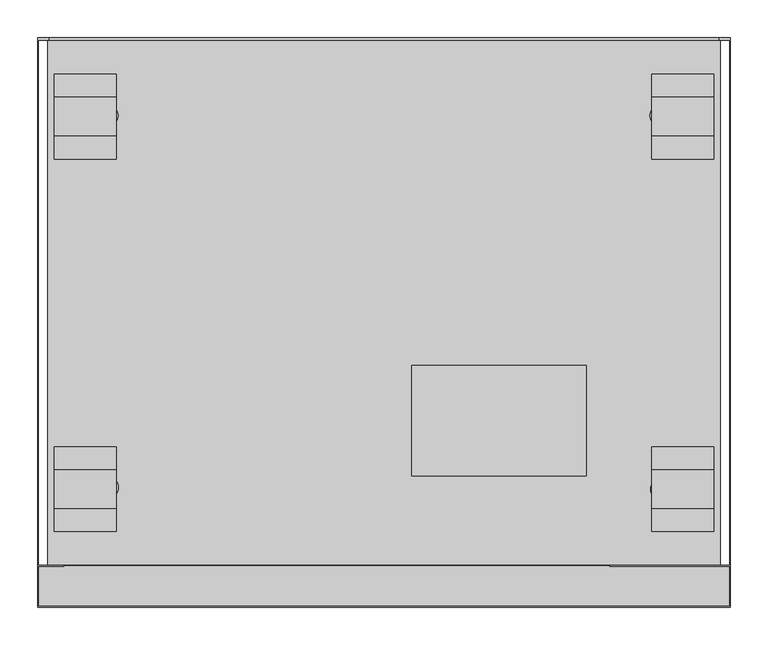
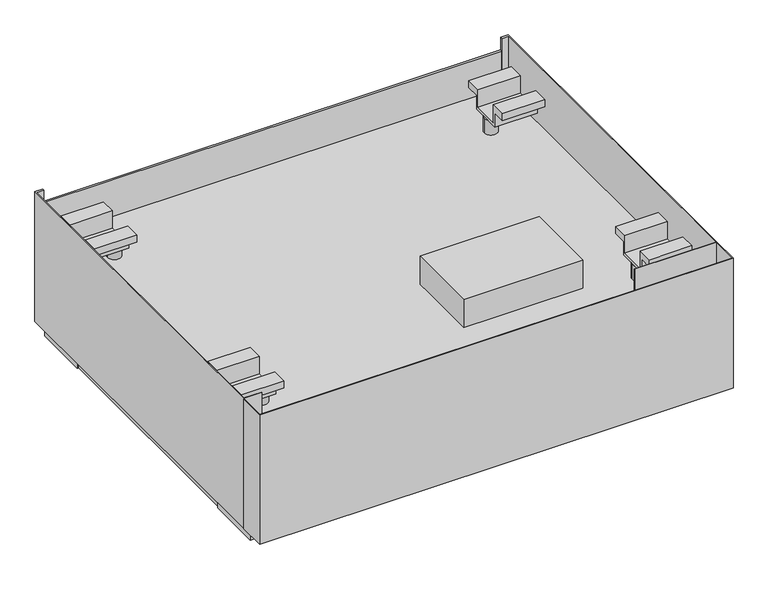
"""IFC4 building model written with IfcOpenShell, lengths in millimetres: proxy geometry, 11918210_EU_APWM041_SST : 59510041_EU_11918210_APWM041_SST."""

from ifc_helpers import new_model, si_unit, point, frame, frame_2d, origin, origin_with_axes, place, context, project, spatial, polyline, circle_curve, trimmed, segment, composite_curve, outline, extrude, faceted_brep, source, transform, mapped, element, save


def specialty_equipment_73939d6c(model_context):
    return source(origin(), model_context, "Body", "SolidModel", [
        extrude(outline(composite_curve([segment(trimmed(circle_curve(frame_2d((366.024381, -103.9272996)), 13.0), [point((379.024381, -103.9272996))], [point((353.024381, -103.9272996))], False, "CARTESIAN"), True, "CONTINUOUS"), segment(trimmed(circle_curve(frame_2d((366.024381, -103.9272996)), 13.0), [point((353.024381, -103.9272996))], [point((379.024381, -103.9272996))], False, "CARTESIAN"), True, "CONTINUOUS")], self_intersect=False)), frame((0.0, 0.0, 199.0), z_axis=(0.0, 0.0, 1.0), x_axis=(1.0, 0.0, 0.0)), (0.0, 0.0, 1.0), 30.0),
        extrude(outline(composite_curve([segment(trimmed(circle_curve(frame_2d((-366.024381, -103.9272996)), 13.0), [point((-379.024381, -103.9272996))], [point((-353.024381, -103.9272996))], False, "CARTESIAN"), True, "CONTINUOUS"), segment(trimmed(circle_curve(frame_2d((-366.024381, -103.9272996)), 13.0), [point((-353.024381, -103.9272996))], [point((-379.024381, -103.9272996))], False, "CARTESIAN"), True, "CONTINUOUS")], self_intersect=False)), frame((0.0, 0.0, 199.0), z_axis=(0.0, 0.0, 1.0), x_axis=(1.0, 0.0, 0.0)), (0.0, 0.0, 1.0), 30.0),
        extrude(outline(composite_curve([segment(trimmed(circle_curve(frame_2d((-365.6384713, -597.9851183)), 13.0), [point((-378.6384713, -597.9851183))], [point((-352.6384713, -597.9851183))], False, "CARTESIAN"), True, "CONTINUOUS"), segment(trimmed(circle_curve(frame_2d((-365.6384713, -597.9851183)), 13.0), [point((-352.6384713, -597.9851183))], [point((-378.6384713, -597.9851183))], False, "CARTESIAN"), True, "CONTINUOUS")], self_intersect=False)), frame((0.0, 0.0, 199.0), z_axis=(0.0, 0.0, 1.0), x_axis=(1.0, 0.0, 0.0)), (0.0, 0.0, 1.0), 30.0),
        extrude(outline(polyline([(52.0145632, 441.1258063), (52.0145632, 434.8946043), (18.0, 434.8946043), (18.0, 390.0), (0.0, 390.0), (0.0, 441.1258063), (52.0145632, 441.1258063)])), frame((0.0, -607.0, 0.0), z_axis=(0.0, 1.0, 0.0), x_axis=(0.0, 0.0, 1.0)), (0.0, 0.0, 1.0), 507.0),
        extrude(outline(polyline([(441.0, -607.0), (441.0, -693.0), (350.0, -693.0), (350.0, -645.3861084), (388.9999568, -645.3861084), (388.9999568, -607.0), (441.0, -607.0)]), holes=[composite_curve([segment(trimmed(circle_curve(frame_2d((410.293628, -665.150216)), 8.0562321), [point((418.3498601, -665.150216))], [point((402.237396, -665.150216))], True, "CARTESIAN"), True, "CONTINUOUS"), segment(trimmed(circle_curve(frame_2d((410.293628, -665.150216)), 8.0562321), [point((402.237396, -665.150216))], [point((418.3498601, -665.150216))], True, "CARTESIAN"), True, "CONTINUOUS")], self_intersect=False)]), origin_with_axes(), (0.0, 0.0, 1.0), 11.5903958),
        extrude(outline(polyline([(-441.0, -607.0), (-389.0000432, -607.0), (-389.0000432, -645.3861084), (-350.0, -645.3861084), (-350.0, -693.0), (-441.0, -693.0), (-441.0, -607.0)]), holes=[composite_curve([segment(trimmed(circle_curve(frame_2d((-410.293628, -665.150216)), 8.0562321), [point((-402.237396, -665.150216))], [point((-418.3498601, -665.150216))], True, "CARTESIAN"), True, "CONTINUOUS"), segment(trimmed(circle_curve(frame_2d((-410.293628, -665.150216)), 8.0562321), [point((-418.3498601, -665.150216))], [point((-402.237396, -665.150216))], True, "CARTESIAN"), True, "CONTINUOUS")], self_intersect=False)]), origin_with_axes(), (0.0, 0.0, 1.0), 11.5903958),
        extrude(outline(polyline([(-441.0, -100.0), (-441.0, -9.5), (-350.0, -9.5), (-350.0, -58.3861084), (-390.5000737, -58.3861084), (-390.5000737, -100.0), (-441.0, -100.0)]), holes=[composite_curve([segment(trimmed(circle_curve(frame_2d((-410.293628, -39.8494788)), 8.0562321), [point((-418.3498601, -39.8494788))], [point((-402.237396, -39.8494788))], True, "CARTESIAN"), True, "CONTINUOUS"), segment(trimmed(circle_curve(frame_2d((-410.293628, -39.8494788)), 8.0562321), [point((-402.237396, -39.8494788))], [point((-418.3498601, -39.8494788))], True, "CARTESIAN"), True, "CONTINUOUS")], self_intersect=False)]), origin_with_axes(), (0.0, 0.0, 1.0), 11.5903958),
        extrude(outline(polyline([(441.0, -100.0), (390.4999263, -100.0), (390.4999263, -58.3861084), (350.0, -58.3861084), (350.0, -9.5), (441.0, -9.5), (441.0, -100.0)]), holes=[composite_curve([segment(trimmed(circle_curve(frame_2d((410.293628, -39.8494788)), 8.0562321), [point((402.237396, -39.8494788))], [point((418.3498601, -39.8494788))], True, "CARTESIAN"), True, "CONTINUOUS"), segment(trimmed(circle_curve(frame_2d((410.293628, -39.8494788)), 8.0562321), [point((418.3498601, -39.8494788))], [point((402.237396, -39.8494788))], True, "CARTESIAN"), True, "CONTINUOUS")], self_intersect=False)]), origin_with_axes(), (0.0, 0.0, 1.0), 11.5903958),
        extrude(outline(polyline([(459.0, -702.0), (459.0, -756.0), (-459.0, -756.0), (-459.0, -702.0), (459.0, -702.0)])), frame((0.0, 0.0, 33.0002937), z_axis=(0.0, 0.0, 1.0), x_axis=(1.0, 0.0, 0.0)), (0.0, 0.0, 1.0), 2.0),
        extrude(outline(polyline([(-656.2654995, 272.0), (-626.2654995, 272.0), (-626.2654995, 236.0), (-573.9995117, 236.0), (-573.9995117, 272.0), (-543.733047, 272.0), (-543.733047, 257.6000392), (-569.9998779, 257.6000392), (-569.9998779, 229.0), (-629.9998779, 229.0), (-629.9998779, 257.6000392), (-656.2654995, 257.6000392), (-656.2654995, 272.0)])), frame((355.4998601, 0.0, 0.0), z_axis=(1.0, 0.0, 0.0), x_axis=(0.0, 1.0, 0.0)), (0.0, 0.0, 1.0), 82.5001399),
        extrude(outline(polyline([(-656.2654995, 272.0), (-626.2654995, 272.0), (-626.2654995, 236.0), (-573.9995117, 236.0), (-573.9995117, 272.0), (-543.733047, 272.0), (-543.733047, 257.6000392), (-569.9998779, 257.6000392), (-569.9998779, 229.0), (-629.9998779, 229.0), (-629.9998779, 257.6000392), (-656.2654995, 257.6000392), (-656.2654995, 272.0)])), frame((-438.0, 0.0, 0.0), z_axis=(1.0, 0.0, 0.0), x_axis=(0.0, 1.0, 0.0)), (0.0, 0.0, 1.0), 82.5001399),
        extrude(outline(polyline([(-48.7341953, 271.5002739), (-48.7341953, 257.6000392), (-74.9998169, 257.6000392), (-74.9998169, 229.0), (-134.9998169, 229.0), (-134.9998169, 257.6000392), (-161.2666478, 257.6000392), (-161.2666478, 271.5002739), (-131.0001831, 271.5002739), (-131.0001831, 236.0), (-78.7341953, 236.0), (-78.7341953, 271.5002739), (-48.7341953, 271.5002739)])), frame((-438.0, 0.0, 0.0), z_axis=(1.0, 0.0, 0.0), x_axis=(0.0, 1.0, 0.0)), (0.0, 0.0, 1.0), 82.5001399),
        extrude(outline(polyline([(-48.7341953, 272.0), (-48.7341953, 257.6000392), (-74.9998169, 257.6000392), (-74.9998169, 229.0), (-134.9998169, 229.0), (-134.9998169, 257.6000392), (-161.2666478, 257.6000392), (-161.2666478, 272.0), (-131.0001831, 272.0), (-131.0001831, 236.0), (-78.7341953, 236.0), (-78.7341953, 272.0), (-48.7341953, 272.0)])), frame((355.4998601, 0.0, 0.0), z_axis=(1.0, 0.0, 0.0), x_axis=(0.0, 1.0, 0.0)), (0.0, 0.0, 1.0), 82.5001399),
        extrude(outline(composite_curve([segment(trimmed(circle_curve(frame_2d((367.0747807, -600.5277164)), 13.0), [point((380.0747807, -600.5277164))], [point((354.0747807, -600.5277164))], False, "CARTESIAN"), True, "CONTINUOUS"), segment(trimmed(circle_curve(frame_2d((367.0747807, -600.5277164)), 13.0), [point((354.0747807, -600.5277164))], [point((380.0747807, -600.5277164))], False, "CARTESIAN"), True, "CONTINUOUS")], self_intersect=False)), frame((0.0, 0.0, 199.0), z_axis=(0.0, 0.0, 1.0), x_axis=(1.0, 0.0, 0.0)), (0.0, 0.0, 1.0), 30.0),
        extrude(outline(polyline([(-690.5000153, 52.0), (-690.5000153, 18.0), (-642.5000153, 18.0), (-642.5000153, 0.0), (-693.0, 0.0), (-693.0, 52.0), (-690.5000153, 52.0)])), frame((-350.0, 0.0, 0.0), z_axis=(1.0, 0.0, 0.0), x_axis=(0.0, 1.0, 0.0)), (0.0, 0.0, 1.0), 700.0),
        extrude(outline(polyline([(-12.0, 52.0), (-9.5000153, 52.0), (-9.5000153, 0.0), (-60.0, 0.0), (-60.0, 18.0), (-12.0, 18.0), (-12.0, 52.0)])), frame((-350.0, 0.0, 0.0), z_axis=(1.0, 0.0, 0.0), x_axis=(0.0, 1.0, 0.0)), (0.0, 0.0, 1.0), 700.0),
        extrude(outline(polyline([(52.0145632, -441.1258063), (0.0, -441.1258063), (0.0, -390.0), (18.0, -390.0), (18.0, -434.8946043), (52.0145632, -434.8946043), (52.0145632, -441.1258063)])), frame((0.0, -607.0, 0.0), z_axis=(0.0, 1.0, 0.0), x_axis=(0.0, 0.0, 1.0)), (0.0, 0.0, 1.0), 507.0),
        extrude(outline(polyline([(444.0, -697.5000153), (337.1649124, -697.5000153), (337.1649124, -693.0), (441.0, -693.0), (441.0, -587.9607935), (444.0, -587.9607935), (444.0, -697.5000153)])), origin_with_axes(), (0.0, 0.0, 1.0), 194.0),
        extrude(outline(polyline([(-444.0, -697.5000153), (-444.0, -587.9607935), (-441.2128543, -587.9607935), (-441.2128543, -693.0), (-337.1649124, -693.0), (-337.1649124, -697.5000153), (-444.0, -697.5000153)])), origin_with_axes(), (0.0, 0.0, 1.0), 194.0),
        extrude(outline(polyline([(444.0, -5.0), (444.0, -114.5392218), (441.0, -114.5392218), (441.0, -9.5000153), (337.1649124, -9.5000153), (337.1649124, -5.0), (444.0, -5.0)])), origin_with_axes(), (0.0, 0.0, 1.0), 194.0),
        extrude(outline(polyline([(-444.0, -5.0), (-337.1649124, -5.0), (-337.1649124, -9.5000153), (-441.2128543, -9.5000153), (-441.2128543, -114.5392218), (-444.0, -114.5392218), (-444.0, -5.0)])), origin_with_axes(), (0.0, 0.0, 1.0), 194.0),
        faceted_brep([(446.5, -4.0, 199.0), (-446.5, -4.0, 199.0), (-446.5, -700.5000153, 199.0), (446.5, -700.5000153, 199.0), (446.5, -4.0, 189.9245813), (446.5, -700.5000153, 189.9245813), (-446.5, -700.5000153, 189.9245813), (-446.5, -4.0, 189.9245813), (444.0, -5.0, 189.9245813), (-444.0, -5.0, 189.9245813), (-444.0, -697.5000153, 189.9245813), (444.0, -697.5000153, 189.9245813), (444.0, -5.0, 194.0), (444.0, -697.5000153, 194.0), (-444.0, -697.5000153, 194.0), (-444.0, -5.0, 194.0)], [[[0, 1, 2, 3]], [[4, 5, 6, 7], [8, 9, 10, 11]], [[1, 0, 4, 7]], [[2, 1, 7, 6]], [[3, 2, 6, 5]], [[0, 3, 5, 4]], [[12, 13, 14, 15]], [[12, 15, 9, 8]], [[15, 14, 10, 9]], [[14, 13, 11, 10]], [[13, 12, 8, 11]]]),
        extrude(outline(polyline([(445.0, -3.7341953), (-445.0, -3.7341953), (-445.0, 0.0), (445.0, 0.0), (445.0, -3.7341953)])), frame((0.0, 0.0, 155.0), z_axis=(0.0, 0.0, 1.0), x_axis=(1.0, 0.0, 0.0)), (0.0, 0.0, 1.0), 119.4502983),
        extrude(outline(polyline([(-460.0, -703.5000153), (-459.0, -703.5000153), (-459.0, -756.0), (459.0, -756.0), (459.0, -703.5000153), (460.0, -703.5000153), (460.0, -757.0), (-460.0, -757.0), (-460.0, -703.5000153)])), frame((0.0, 0.0, 33.0002937), z_axis=(0.0, 0.0, 1.0), x_axis=(1.0, 0.0, 0.0)), (0.0, 0.0, 1.0), 266.9997063),
        extrude(outline(polyline([(-460.0, 0.0), (-445.0, 0.0), (-445.0, -3.7341953), (-459.0, -3.7341953), (-459.0, -701.5000153), (-425.0000737, -701.5000153), (-425.0000737, -702.5000153), (-460.0, -702.5000153), (-460.0, 0.0)])), frame((0.0, 0.0, 33.0002937), z_axis=(0.0, 0.0, 1.0), x_axis=(1.0, 0.0, 0.0)), (0.0, 0.0, 1.0), 266.9997063),
        extrude(outline(polyline([(460.0, -702.5000153), (299.9999263, -702.5000153), (299.9999263, -701.5000153), (459.0, -701.5000153), (459.0, -3.7341953), (445.0, -3.7341953), (445.0, 0.0), (460.0, 0.0), (460.0, -702.5000153)])), frame((0.0, 0.0, 33.0002937), z_axis=(0.0, 0.0, 1.0), x_axis=(1.0, 0.0, 0.0)), (0.0, 0.0, 1.0), 266.9997063),
        extrude(outline(polyline([(406.2348238, -44.8244981), (406.2348238, -34.778867), (410.0681541, -34.778867), (411.9455786, -35.0743989), (413.0541297, -35.9830674), (413.455121, -37.2682019), (413.1178959, -38.4417454), (412.0988628, -39.3307936), (413.3361725, -40.2676664), (413.769047, -41.8299386), (413.4735151, -43.1800655), (412.74143, -44.1414638), (411.6488204, -44.6515935), (410.0387236, -44.8244981), (406.2348238, -44.8244981)]), holes=[polyline([(407.4905276, -38.8599046), (409.7836587, -38.8599046), (411.1227492, -38.7519926), (411.9284108, -38.287235), (412.1994172, -37.4693107), (411.9468049, -36.6501601), (411.2233036, -36.1657822), (409.6095279, -36.0345709), (407.4905276, -36.0345709), (407.4905276, -38.8599046)]), polyline([(407.4905276, -43.5687942), (410.0657016, -43.5687942), (410.9976693, -43.5197433), (411.7861631, -43.2462843), (412.5133431, -41.8422014), (412.2729936, -40.8660878), (411.49431, -40.283608), (409.9430743, -40.1156085), (407.4905276, -40.1156085), (407.4905276, -43.5687942)])]), frame((0.0, 0.0, -1.0), z_axis=(0.0, 0.0, 1.0), x_axis=(1.0, 0.0, 0.0)), (0.0, 0.0, 1.0), 1.0),
        extrude(outline(polyline([(-413.2981581, -44.8244981), (-413.2981581, -34.778867), (-409.4648277, -34.778867), (-407.5874032, -35.0743989), (-406.4788521, -35.9830674), (-406.0778608, -37.2682019), (-406.4150859, -38.4417454), (-407.4341191, -39.3307936), (-406.1968093, -40.2676664), (-405.7639348, -41.8299386), (-406.0594667, -43.1800655), (-406.7915518, -44.1414638), (-407.8841614, -44.6515935), (-409.4942582, -44.8244981), (-413.2981581, -44.8244981)]), holes=[polyline([(-412.0424542, -38.8599046), (-409.7493231, -38.8599046), (-408.4102326, -38.7519926), (-407.604571, -38.287235), (-407.3335646, -37.4693107), (-407.5861769, -36.6501601), (-408.3096782, -36.1657822), (-409.9234539, -36.0345709), (-412.0424542, -36.0345709), (-412.0424542, -38.8599046)]), polyline([(-412.0424542, -43.5687942), (-409.4672802, -43.5687942), (-408.5353125, -43.5197433), (-407.7468188, -43.2462843), (-407.0196387, -41.8422014), (-407.2599882, -40.8660878), (-408.0386718, -40.283608), (-409.5899075, -40.1156085), (-412.0424542, -40.1156085), (-412.0424542, -43.5687942)])]), frame((0.0, 0.0, -1.0), z_axis=(0.0, 0.0, 1.0), x_axis=(1.0, 0.0, 0.0)), (0.0, 0.0, 1.0), 1.0),
        extrude(outline(polyline([(406.639363, -670.1256361), (406.639363, -660.0800051), (410.4726934, -660.0800051), (412.3501179, -660.375537), (413.458669, -661.2842055), (413.8596603, -662.5693399), (413.5224352, -663.7428835), (412.5034021, -664.6319316), (413.7407118, -665.5688045), (414.1735863, -667.1310767), (413.8780544, -668.4812036), (413.1459693, -669.4426019), (412.0533597, -669.9527316), (410.4432629, -670.1256361), (406.639363, -670.1256361)]), holes=[polyline([(407.8950669, -664.1610427), (410.188198, -664.1610427), (411.5272885, -664.0531306), (412.3329501, -663.5883731), (412.6039565, -662.7704488), (412.3513442, -661.9512982), (411.6278429, -661.4669202), (410.0140672, -661.335709), (407.8950669, -661.335709), (407.8950669, -664.1610427)]), polyline([(407.8950669, -668.8699322), (410.4702409, -668.8699322), (411.4022086, -668.8208813), (412.1907024, -668.5474223), (412.9178824, -667.1433394), (412.6775329, -666.1672258), (411.8988493, -665.584746), (410.3476136, -665.4167466), (407.8950669, -665.4167466), (407.8950669, -668.8699322)])]), frame((0.0, 0.0, -1.0), z_axis=(0.0, 0.0, 1.0), x_axis=(1.0, 0.0, 0.0)), (0.0, 0.0, 1.0), 1.0),
        extrude(outline(polyline([(-413.7026974, -670.1256361), (-413.7026974, -660.0800051), (-409.869367, -660.0800051), (-407.9919425, -660.375537), (-406.8833914, -661.2842055), (-406.4824001, -662.5693399), (-406.8196252, -663.7428835), (-407.8386584, -664.6319316), (-406.6013486, -665.5688045), (-406.1684741, -667.1310767), (-406.464006, -668.4812036), (-407.1960911, -669.4426019), (-408.2887007, -669.9527316), (-409.8987975, -670.1256361), (-413.7026974, -670.1256361)]), holes=[polyline([(-412.4469935, -664.1610427), (-410.1538624, -664.1610427), (-408.8147719, -664.0531306), (-408.0091103, -663.5883731), (-407.7381039, -662.7704488), (-407.9907162, -661.9512982), (-408.7142175, -661.4669202), (-410.3279932, -661.335709), (-412.4469935, -661.335709), (-412.4469935, -664.1610427)]), polyline([(-412.4469935, -668.8699322), (-409.8718195, -668.8699322), (-408.9398518, -668.8208813), (-408.151358, -668.5474223), (-407.424178, -667.1433394), (-407.6645275, -666.1672258), (-408.4432111, -665.584746), (-409.9944468, -665.4167466), (-412.4469935, -665.4167466), (-412.4469935, -668.8699322)])]), frame((0.0, 0.0, -1.0), z_axis=(0.0, 0.0, 1.0), x_axis=(1.0, 0.0, 0.0)), (0.0, 0.0, 1.0), 1.0),
        extrude(outline(polyline([(268.8226917, -435.77779), (268.8226917, -582.6113729), (37.0138568, -582.6113729), (37.0138568, -435.77779), (268.8226917, -435.77779)])), frame((0.0, 0.0, 199.0), z_axis=(0.0, 0.0, 1.0), x_axis=(1.0, 0.0, 0.0)), (0.0, 0.0, 1.0), 58.5999107),
    ])


if __name__ == "__main__":
    model = new_model("IFC4")
    model_context = context("Model", 3, world=origin())
    ifc_project = project(units=[si_unit("LENGTHUNIT", "METRE", prefix="MILLI")], contexts=[model_context])
    site = spatial("IfcSite", under=ifc_project)
    building = spatial("IfcBuilding", under=site)
    placement = place(None, origin())
    specialty_equipment_shape = specialty_equipment_73939d6c(model_context)
    element("IfcBuildingElementProxy", 1, Name="11918210_EU_APWM041_SST : 59510041_EU_11918210_APWM041_SST", ObjectType="11918210_EU_APWM041_SST : 59510041_EU_11918210_APWM041_SST", at=placement, inside=building, context=model_context, shape_type="MappedRepresentation", body=[
        mapped(specialty_equipment_shape, transform((0.0, 0.0, 0.0), x_axis=(1.0, 0.0, 0.0), y_axis=(0.0, 1.0, 0.0), z_axis=(0.0, 0.0, 1.0))),
    ])
    save(model, "model.ifc")
